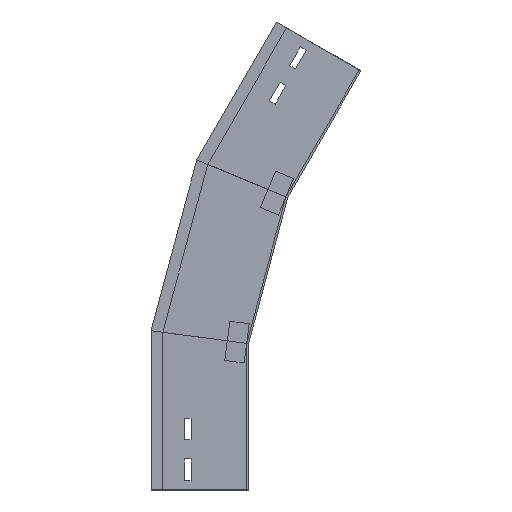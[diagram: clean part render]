
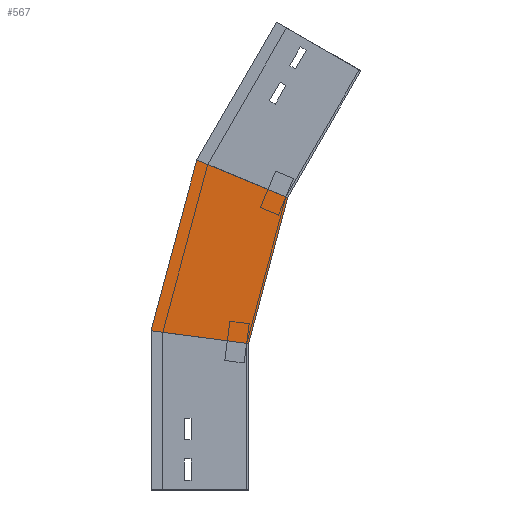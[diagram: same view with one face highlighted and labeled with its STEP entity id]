
A CAD part, left-side view. The second image highlights one B-rep face of the part: STEP entity #567.
In plain terms, the highlighted planar face has unit normal (-1, 0, 0) as drawn and (1, 0, 0) by its records, which use the part's own axes.
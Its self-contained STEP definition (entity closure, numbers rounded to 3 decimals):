
#41 = VECTOR ( 'NONE', #584, 1000. ) ;
#66 = PLANE ( 'NONE',  #1130 ) ;
#73 = EDGE_CURVE ( 'NONE', #571, #1244, #926, .T. ) ;
#85 = CARTESIAN_POINT ( 'NONE',  ( 0., 3.774, 135.915 ) ) ;
#102 = CARTESIAN_POINT ( 'NONE',  ( 0., 100.367, 161.797 ) ) ;
#184 = CARTESIAN_POINT ( 'NONE',  ( 0., -60.567, 291.248 ) ) ;
#205 = FACE_OUTER_BOUND ( 'NONE', #889, .T. ) ;
#258 = ORIENTED_EDGE ( 'NONE', *, *, #1335, .F. ) ;
#297 = CARTESIAN_POINT ( 'NONE',  ( 0., -19.411, 147.444 ) ) ;
#310 = DIRECTION ( 'NONE',  ( 0., 0., -1. ) ) ;
#412 = DIRECTION ( 'NONE',  ( 0., -0.991, -0.131 ) ) ;
#480 = VECTOR ( 'NONE', #519, 1000. ) ;
#519 = DIRECTION ( 'NONE',  ( 0., -0.259, 0.966 ) ) ;
#527 = EDGE_CURVE ( 'NONE', #1244, #719, #1353, .T. ) ;
#531 = DIRECTION ( 'NONE',  ( 1., 0., 0. ) ) ;
#559 = DIRECTION ( 'NONE',  ( 0., -0.924, -0.383 ) ) ;
#567 = ADVANCED_FACE ( 'NONE', ( #205 ), #66, .T. ) ;
#571 = VERTEX_POINT ( 'NONE', #1358 ) ;
#584 = DIRECTION ( 'NONE',  ( 0., -0.259, 0.966 ) ) ;
#634 = ORIENTED_EDGE ( 'NONE', *, *, #527, .T. ) ;
#692 = VERTEX_POINT ( 'NONE', #955 ) ;
#719 = VERTEX_POINT ( 'NONE', #1439 ) ;
#889 = EDGE_LOOP ( 'NONE', ( #1208, #634, #258, #1259 ) ) ;
#896 = VECTOR ( 'NONE', #559, 1000. ) ;
#926 = LINE ( 'NONE', #102, #41 ) ;
#955 = CARTESIAN_POINT ( 'NONE',  ( 0., 0., 150. ) ) ;
#1031 = VECTOR ( 'NONE', #412, 1000. ) ;
#1054 = CARTESIAN_POINT ( 'NONE',  ( 0., 3.774, 135.915 ) ) ;
#1122 = EDGE_CURVE ( 'NONE', #571, #692, #1437, .T. ) ;
#1130 = AXIS2_PLACEMENT_3D ( 'NONE', #85, #531, #310 ) ;
#1208 = ORIENTED_EDGE ( 'NONE', *, *, #73, .T. ) ;
#1244 = VERTEX_POINT ( 'NONE', #1384 ) ;
#1259 = ORIENTED_EDGE ( 'NONE', *, *, #1122, .F. ) ;
#1335 = EDGE_CURVE ( 'NONE', #692, #719, #1421, .T. ) ;
#1353 = LINE ( 'NONE', #184, #896 ) ;
#1358 = CARTESIAN_POINT ( 'NONE',  ( 0., 100., 163.165 ) ) ;
#1384 = CARTESIAN_POINT ( 'NONE',  ( 0., 53.068, 338.317 ) ) ;
#1421 = LINE ( 'NONE', #1054, #480 ) ;
#1437 = LINE ( 'NONE', #297, #1031 ) ;
#1439 = CARTESIAN_POINT ( 'NONE',  ( 0., -40.117, 299.719 ) ) ;
